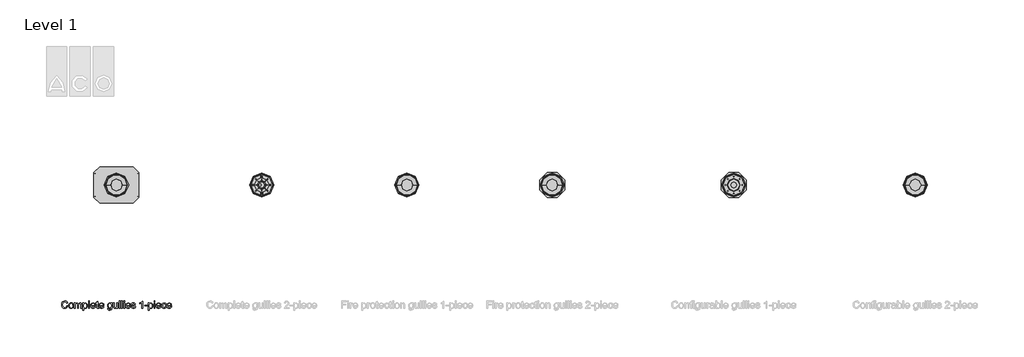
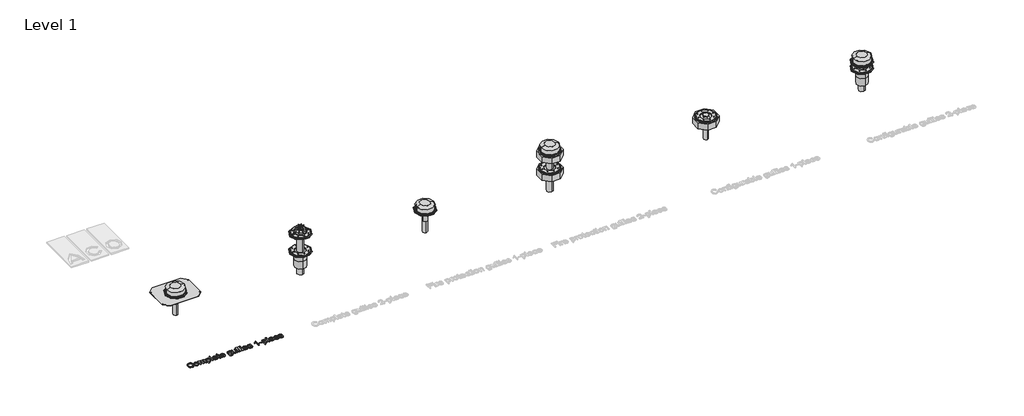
# One storey, part 1 of 4: 39 sanitary terminals, 1 proxy, 1 unitary equipment element.
"""IFC4 building model written with IfcOpenShell, lengths in millimetres."""

from ifc_helpers import new_model, si_unit, origin, origin_with_axes, place, context, project, spatial, polyline, outline, extrude, transform, mapped, element, save
from components import dn100_cellular_glass_insulation_01523197, dn70_uninsulated_26a85f5e, dn70_e7ab0a21, pf_gen_spin_complete_gully_double_body_aco_dn70_uninsulated_9e07d89d, std_nested_c40f8a32, std_nested_96657f73, std_nested_b7057b15, std_nested_38cea44b, std_nested_48636e09, std_nested_563bcbb4, std_nested_f304a034, std_nested_937152f7, std_nested_26a2ab0b, std_nested_b6c5579d, std_nested_9b388c5e, std_nested_0cbd71f9, std_nested_315dc5ef, std_nested_016ffaeb, std_nested_41c56b70

model = new_model("IFC4")

# Units and contexts
model_context = context("Model", 3, world=origin())
ifc_project = project(units=[si_unit("LENGTHUNIT", "METRE", prefix="MILLI")], contexts=[model_context])

# Site, building, storey
site = spatial("IfcSite", under=ifc_project)
building = spatial("IfcBuilding", under=site)
storey = spatial("IfcBuildingStorey", under=building, Name="Level 1", Elevation=0.0)

# Proxy
placement = place(None, origin())
element("IfcBuildingElementProxy", 1, Name="100mm ACO", ObjectType="100mm ACO", at=placement, inside=storey, context=model_context, shape_type="SweptSolid", body=[
    extrude(outline(polyline([(830.5555556, -668.1712963), (824.6419271, -682.9969618), (815.5237269, -693.5040509), (803.7362558, -699.7649016), (789.8148148, -701.8518519), (768.9091435, -697.9962384), (754.5717593, -686.4293981), (746.2818287, -669.4372106), (743.5185185, -649.3055556), (746.7628762, -627.9188368), (756.4959491, -611.7332176), (771.3288484, -601.5444155), (789.8726852, -598.1481481), (803.1864873, -599.9602141), (814.4241898, -605.396412), (823.0938947, -614.3265336), (828.7037037, -626.6203704), (815.7407407, -629.6296296), (805.8883102, -614.3663194), (789.380787, -609.2592593), (775.1591435, -611.968316), (764.84375, -620.0954861), (758.5720486, -632.7799479), (756.4814815, -649.1608796), (758.6950231, -667.5238715), (765.3356481, -680.4832176), (775.5353009, -688.17636), (788.4259259, -690.7407407), (798.9945023, -689.1239873), (807.3784722, -684.2737269), (813.5778356, -676.1754919), (817.5925926, -664.8148148), (830.5555556, -668.1712963)])), origin_with_axes(), (0.0, 0.0, 1.0), 10.0),
    extrude(outline(polyline([(874.9710648, -625.9259259), (888.1474248, -628.3203125), (898.8570602, -635.5034722), (905.964265, -647.0992477), (908.3333333, -662.7314815), (905.7689525, -681.0040509), (898.0758102, -692.9976852), (887.1708623, -699.6383102), (874.9710648, -701.8518519), (862.3806424, -699.5768229), (851.5769676, -692.7517361), (844.1442419, -680.9859664), (841.6666667, -663.8888889), (844.0610532, -647.1715856), (851.244213, -635.3298611), (861.9646991, -628.2769097), (874.9710648, -625.9259259)]), holes=[polyline([(874.9710648, -692.5925926), (883.7782118, -690.5852141), (890.1765046, -684.5630787), (895.3703704, -663.4259259), (893.9019097, -651.1429398), (889.4965278, -642.3032407), (882.9282407, -636.9646991), (874.9710648, -635.1851852), (866.8583623, -636.9900174), (860.3443287, -642.4045139), (856.0583044, -651.3925058), (854.6296296, -663.9178241), (856.0836227, -676.3997396), (860.4456019, -685.3732639), (866.9849537, -690.7877604), (874.9710648, -692.5925926)])]), origin_with_axes(), (0.0, 0.0, 1.0), 10.0),
    extrude(outline(polyline([(1019.4444444, -700.0), (1006.4814815, -700.0), (1006.4814815, -653.2986111), (1005.8304398, -644.4878472), (1002.4450231, -638.0063657), (993.9236111, -635.1851852), (981.9155093, -640.3356481), (978.1177662, -647.0920139), (976.8518519, -657.0601852), (976.8518519, -700.0), (963.8888889, -700.0), (963.8888889, -651.9097222), (960.7060185, -638.744213), (951.6782407, -635.1851852), (939.1493056, -640.7552083), (935.4817708, -648.7521701), (934.2592593, -661.6030093), (934.2592593, -700.0), (921.2962963, -700.0), (921.2962963, -627.7777778), (932.4074074, -627.7777778), (932.4074074, -637.6736111), (941.7896412, -628.8628472), (954.3402778, -625.9259259), (967.5202546, -629.0943287), (975.0, -638.6284722), (984.5196759, -629.1015625), (997.1064815, -625.9259259), (1006.8793403, -627.4450231), (1013.8599537, -632.0023148), (1018.0483218, -639.5978009), (1019.4444444, -650.2314815), (1019.4444444, -700.0)])), origin_with_axes(), (0.0, 0.0, 1.0), 10.0),
    extrude(outline(polyline([(1051.0561343, -636.4872685), (1059.5124421, -628.5662616), (1071.1805556, -625.9259259), (1083.5069444, -628.515625), (1092.9398148, -636.2847222), (1098.9293981, -648.2132523), (1100.9259259, -663.28125), (1098.6689815, -679.1702836), (1091.8981481, -691.4207176), (1081.8431713, -699.2440683), (1069.7337963, -701.8518519), (1059.3605324, -699.7251157), (1051.2731481, -693.3449074), (1050.9259259, -727.7777778), (1037.962963, -727.7777778), (1037.962963, -627.7777778), (1050.9259259, -627.7777778), (1051.0561343, -636.4872685)]), holes=[polyline([(1068.3159722, -692.5925926), (1076.0886863, -690.766059), (1082.3929398, -685.2864583), (1086.5704572, -676.1899595), (1087.962963, -663.5127315), (1086.6210937, -651.4359086), (1082.5954861, -642.5202546), (1076.4793113, -637.0189525), (1068.8657407, -635.1851852), (1060.9845197, -637.2287326), (1054.6440972, -643.359375), (1050.4665799, -652.7452257), (1049.0740741, -664.5543981), (1050.4087095, -676.66739), (1054.4126157, -685.4600694), (1060.5577257, -690.8094618), (1068.3159722, -692.5925926)])]), origin_with_axes(), (0.0, 0.0, 1.0), 10.0),
    extrude(outline(polyline([(1128.7037037, -700.0), (1115.7407407, -700.0), (1115.7407407, -600.0), (1128.7037037, -600.0), (1128.7037037, -700.0)])), origin_with_axes(), (0.0, 0.0, 1.0), 10.0),
    extrude(outline(polyline([(1210.1851852, -666.6666667), (1156.4814815, -666.6666667), (1158.5539641, -677.7922454), (1163.2667824, -685.9375), (1170.0484664, -690.9288194), (1178.3275463, -692.5925926), (1190.0028935, -688.9033565), (1197.2222222, -677.7777778), (1210.1851852, -679.2824074), (1205.8087384, -688.9033565), (1198.8715278, -696.0069444), (1189.6267361, -700.390625), (1178.3275463, -701.8518519), (1163.7405961, -699.3453414), (1152.734375, -691.8258102), (1145.8224826, -679.9660012), (1143.5185185, -664.4386574), (1145.739294, -648.900463), (1152.4016204, -636.6030093), (1163.1004051, -628.5951968), (1177.4305556, -625.9259259), (1192.650463, -629.3836806), (1205.078125, -641.1603009), (1208.9084201, -651.6963252), (1210.1851852, -666.6666667)]), holes=[polyline([(1197.2222222, -657.4074074), (1195.1388889, -647.2511574), (1190.3935185, -640.3935185), (1177.1122685, -635.1851852), (1169.2563657, -636.7332176), (1162.9340278, -641.3773148), (1156.4814815, -657.4074074), (1197.2222222, -657.4074074)])]), origin_with_axes(), (0.0, 0.0, 1.0), 10.0),
    extrude(outline(polyline([(1252.7777778, -701.0127315), (1243.6921296, -701.8518519), (1232.103588, -698.9728009), (1227.662037, -691.6666667), (1226.8518519, -679.3402778), (1226.8518519, -637.037037), (1217.5925926, -637.037037), (1217.5925926, -627.7777778), (1226.8518519, -627.7777778), (1226.8518519, -609.4328704), (1239.8148148, -601.8518519), (1239.8148148, -627.7777778), (1250.9259259, -627.7777778), (1250.9259259, -637.037037), (1239.8148148, -637.037037), (1239.8148148, -681.9444444), (1240.8564815, -690.162037), (1246.1516204, -692.5925926), (1251.1863426, -692.5925926), (1252.7777778, -701.0127315)])), origin_with_axes(), (0.0, 0.0, 1.0), 10.0),
    extrude(outline(polyline([(1326.8518519, -666.6666667), (1273.1481481, -666.6666667), (1275.2206308, -677.7922454), (1279.9334491, -685.9375), (1286.7151331, -690.9288194), (1294.994213, -692.5925926), (1306.6695602, -688.9033565), (1313.8888889, -677.7777778), (1326.8518519, -679.2824074), (1322.4754051, -688.9033565), (1315.5381944, -696.0069444), (1306.2934028, -700.390625), (1294.994213, -701.8518519), (1280.4072627, -699.3453414), (1269.4010417, -691.8258102), (1262.4891493, -679.9660012), (1260.1851852, -664.4386574), (1262.4059606, -648.900463), (1269.068287, -636.6030093), (1279.7670718, -628.5951968), (1294.0972222, -625.9259259), (1309.3171296, -629.3836806), (1321.7447917, -641.1603009), (1325.5750868, -651.6963252), (1326.8518519, -666.6666667)]), holes=[polyline([(1313.8888889, -657.4074074), (1311.8055556, -647.2511574), (1307.0601852, -640.3935185), (1293.7789352, -635.1851852), (1285.9230324, -636.7332176), (1279.6006944, -641.3773148), (1273.1481481, -657.4074074), (1313.8888889, -657.4074074)])]), origin_with_axes(), (0.0, 0.0, 1.0), 10.0),
    extrude(outline(polyline([(1439.8148148, -689.3518519), (1436.7621528, -711.9936343), (1425.8969907, -723.6255787), (1407.2337963, -727.7777778), (1396.0177951, -726.3708044), (1386.8489583, -722.1498843), (1380.7400174, -714.7243924), (1378.7037037, -703.7037037), (1391.6666667, -705.7581019), (1396.2384259, -715.3211806), (1407.4363426, -718.5185185), (1420.7465278, -714.8292824), (1425.9114583, -705.8449074), (1426.8518519, -691.2326389), (1418.0772569, -697.8081597), (1407.2627315, -700.0), (1394.8712384, -697.3885995), (1385.1851852, -689.5543981), (1378.9351852, -677.7416088), (1376.8518519, -663.1944444), (1378.833912, -648.5532407), (1384.7800926, -636.5740741), (1394.2274306, -628.587963), (1406.712963, -625.9259259), (1417.7879051, -628.3058449), (1426.5914352, -635.4456019), (1426.8518519, -627.7777778), (1439.8148148, -627.7777778), (1439.8148148, -689.3518519)]), holes=[polyline([(1409.2013889, -690.7407407), (1416.4134838, -689.134838), (1422.7719907, -684.3171296), (1427.2207755, -675.7233796), (1428.7037037, -662.7893519), (1427.2894965, -651.0018808), (1423.046875, -642.3177083), (1416.7209201, -636.968316), (1409.056713, -635.1851852), (1401.3346354, -637.0117187), (1395.1822917, -642.4913194), (1391.156684, -651.1465567), (1389.8148148, -662.5), (1391.2217882, -675.2170139), (1395.4427083, -683.9699074), (1401.6963252, -689.0480324), (1409.2013889, -690.7407407)])]), origin_with_axes(), (0.0, 0.0, 1.0), 10.0),
    extrude(outline(polyline([(1517.5925926, -700.0), (1506.4814815, -700.0), (1506.4814815, -689.4965278), (1496.2384259, -698.7630208), (1483.275463, -701.8518519), (1469.1550926, -698.3362269), (1460.5034722, -688.6574074), (1458.3333333, -672.65625), (1458.3333333, -627.7777778), (1471.2962963, -627.7777778), (1471.2962963, -668.75), (1472.193287, -682.8414352), (1476.880787, -689.84375), (1485.9085648, -692.5925926), (1498.6545139, -687.6736111), (1503.1358507, -680.1215278), (1504.6296296, -667.3032407), (1504.6296296, -627.7777778), (1517.5925926, -627.7777778), (1517.5925926, -700.0)])), origin_with_axes(), (0.0, 0.0, 1.0), 10.0),
    extrude(outline(polyline([(1549.0740741, -700.0), (1536.1111111, -700.0), (1536.1111111, -600.0), (1549.0740741, -600.0), (1549.0740741, -700.0)])), origin_with_axes(), (0.0, 0.0, 1.0), 10.0),
    extrude(outline(polyline([(1580.5555556, -700.0), (1567.5925926, -700.0), (1567.5925926, -600.0), (1580.5555556, -600.0), (1580.5555556, -700.0)])), origin_with_axes(), (0.0, 0.0, 1.0), 10.0),
    extrude(outline(polyline([(1612.037037, -612.962963), (1599.0740741, -612.962963), (1599.0740741, -600.0), (1612.037037, -600.0), (1612.037037, -612.962963)])), origin_with_axes(), (0.0, 0.0, 1.0), 10.0),
    extrude(outline(polyline([(1612.037037, -700.0), (1599.0740741, -700.0), (1599.0740741, -627.7777778), (1612.037037, -627.7777778), (1612.037037, -700.0)])), origin_with_axes(), (0.0, 0.0, 1.0), 10.0),
    extrude(outline(polyline([(1693.5185185, -666.6666667), (1639.8148148, -666.6666667), (1641.8872975, -677.7922454), (1646.6001157, -685.9375), (1653.3817998, -690.9288194), (1661.6608796, -692.5925926), (1673.3362269, -688.9033565), (1680.5555556, -677.7777778), (1693.5185185, -679.2824074), (1689.1420718, -688.9033565), (1682.2048611, -696.0069444), (1672.9600694, -700.390625), (1661.6608796, -701.8518519), (1647.0739294, -699.3453414), (1636.0677083, -691.8258102), (1629.155816, -679.9660012), (1626.8518519, -664.4386574), (1629.0726273, -648.900463), (1635.7349537, -636.6030093), (1646.4337384, -628.5951968), (1660.7638889, -625.9259259), (1675.9837963, -629.3836806), (1688.4114583, -641.1603009), (1692.2417535, -651.6963252), (1693.5185185, -666.6666667)]), holes=[polyline([(1680.5555556, -657.4074074), (1678.4722222, -647.2511574), (1673.7268519, -640.3935185), (1660.4456019, -635.1851852), (1652.5896991, -636.7332176), (1646.2673611, -641.3773148), (1639.8148148, -657.4074074), (1680.5555556, -657.4074074)])]), origin_with_axes(), (0.0, 0.0, 1.0), 10.0),
    extrude(outline(polyline([(1749.0740741, -648.1481481), (1744.2853009, -638.4259259), (1733.2175926, -635.1851852), (1721.9039352, -637.962963), (1717.5925926, -646.0358796), (1720.4427083, -653.1828704), (1733.8831019, -657.0601852), (1751.6059028, -661.2268519), (1760.6481481, -667.5491898), (1763.8888889, -678.8773148), (1761.8778935, -687.8074363), (1755.8449074, -695.2112269), (1746.448206, -700.1916956), (1734.3460648, -701.8518519), (1721.8713831, -700.4557292), (1712.4565972, -696.2673611), (1706.0944734, -689.2939815), (1702.7777778, -679.5428241), (1715.7407407, -677.7777778), (1721.3396991, -688.9033565), (1734.3460648, -692.5925926), (1746.6435185, -688.7586806), (1750.9259259, -679.4270833), (1749.0017361, -673.4519676), (1744.1984954, -670.0810185), (1730.6134259, -667.1875), (1709.6788194, -659.375), (1704.6296296, -646.7881944), (1706.499566, -638.5018808), (1712.109375, -631.8142361), (1720.880353, -627.3980035), (1732.2337963, -625.9259259), (1744.1659433, -627.2135417), (1753.1105324, -631.0763889), (1759.0675637, -637.5072338), (1762.037037, -646.4988426), (1749.0740741, -648.1481481)])), origin_with_axes(), (0.0, 0.0, 1.0), 10.0),
    extrude(outline(polyline([(1860.1851852, -700.0), (1847.2222222, -700.0), (1847.2222222, -622.2222222), (1823.1481481, -637.037037), (1823.1481481, -627.7777778), (1841.4207176, -616.0590278), (1852.7777778, -601.8518519), (1860.1851852, -601.8518519), (1860.1851852, -700.0)])), origin_with_axes(), (0.0, 0.0, 1.0), 10.0),
    extrude(outline(polyline([(1926.8518519, -666.6666667), (1887.962963, -666.6666667), (1887.962963, -657.4074074), (1926.8518519, -657.4074074), (1926.8518519, -666.6666667)])), origin_with_axes(), (0.0, 0.0, 1.0), 10.0),
    extrude(outline(polyline([(1952.9079861, -636.4872685), (1961.364294, -628.5662616), (1973.0324074, -625.9259259), (1985.3587963, -628.515625), (1994.7916667, -636.2847222), (2000.78125, -648.2132523), (2002.7777778, -663.28125), (2000.5208333, -679.1702836), (1993.75, -691.4207176), (1983.6950231, -699.2440683), (1971.5856481, -701.8518519), (1961.2123843, -699.7251157), (1953.125, -693.3449074), (1952.7777778, -727.7777778), (1939.8148148, -727.7777778), (1939.8148148, -627.7777778), (1952.7777778, -627.7777778), (1952.9079861, -636.4872685)]), holes=[polyline([(1970.1678241, -692.5925926), (1977.9405382, -690.766059), (1984.2447917, -685.2864583), (1988.422309, -676.1899595), (1989.8148148, -663.5127315), (1988.4729456, -651.4359086), (1984.447338, -642.5202546), (1978.3311632, -637.0189525), (1970.7175926, -635.1851852), (1962.8363715, -637.2287326), (1956.4959491, -643.359375), (1952.3184317, -652.7452257), (1950.9259259, -664.5543981), (1952.2605613, -676.66739), (1956.2644676, -685.4600694), (1962.4095775, -690.8094618), (1970.1678241, -692.5925926)])]), origin_with_axes(), (0.0, 0.0, 1.0), 10.0),
    extrude(outline(polyline([(2030.5555556, -700.0), (2017.5925926, -700.0), (2017.5925926, -627.7777778), (2030.5555556, -627.7777778), (2030.5555556, -700.0)])), origin_with_axes(), (0.0, 0.0, 1.0), 10.0),
    extrude(outline(polyline([(2030.5555556, -612.962963), (2017.5925926, -612.962963), (2017.5925926, -600.0), (2030.5555556, -600.0), (2030.5555556, -612.962963)])), origin_with_axes(), (0.0, 0.0, 1.0), 10.0),
    extrude(outline(polyline([(2112.037037, -666.6666667), (2058.3333333, -666.6666667), (2060.405816, -677.7922454), (2065.1186343, -685.9375), (2071.9003183, -690.9288194), (2080.1793981, -692.5925926), (2091.8547454, -688.9033565), (2099.0740741, -677.7777778), (2112.037037, -679.2824074), (2107.6605903, -688.9033565), (2100.7233796, -696.0069444), (2091.478588, -700.390625), (2080.1793981, -701.8518519), (2065.5924479, -699.3453414), (2054.5862269, -691.8258102), (2047.6743345, -679.9660012), (2045.3703704, -664.4386574), (2047.5911458, -648.900463), (2054.2534722, -636.6030093), (2064.9522569, -628.5951968), (2079.2824074, -625.9259259), (2094.5023148, -629.3836806), (2106.9299769, -641.1603009), (2110.760272, -651.6963252), (2112.037037, -666.6666667)]), holes=[polyline([(2099.0740741, -657.4074074), (2096.9907407, -647.2511574), (2092.2453704, -640.3935185), (2078.9641204, -635.1851852), (2071.1082176, -636.7332176), (2064.7858796, -641.3773148), (2058.3333333, -657.4074074), (2099.0740741, -657.4074074)])]), origin_with_axes(), (0.0, 0.0, 1.0), 10.0),
    extrude(outline(polyline([(2187.962963, -675.5497685), (2183.9337384, -687.3553241), (2176.7650463, -695.5150463), (2167.4406829, -700.2676505), (2156.9444444, -701.8518519), (2142.6287616, -699.2621528), (2131.9733796, -691.4930556), (2125.354456, -679.4487847), (2123.1481481, -664.0335648), (2128.1828704, -641.3483796), (2140.7841435, -629.3836806), (2156.6840278, -625.9259259), (2176.1429398, -631.5827546), (2182.6786748, -638.566985), (2186.1111111, -648.2060185), (2173.1481481, -650.0), (2167.2453704, -638.9033565), (2156.8287037, -635.1851852), (2147.8732639, -637.0695891), (2141.3773148, -642.7228009), (2137.427662, -651.7541956), (2136.1111111, -663.7731481), (2137.4312789, -676.0018808), (2141.3917824, -685.083912), (2147.8407118, -690.7154225), (2156.6261574, -692.5925926), (2169.2274306, -687.962963), (2175.0, -674.0740741), (2187.962963, -675.5497685)])), origin_with_axes(), (0.0, 0.0, 1.0), 10.0),
    extrude(outline(polyline([(2258.3333333, -666.6666667), (2204.6296296, -666.6666667), (2206.7021123, -677.7922454), (2211.4149306, -685.9375), (2218.1966146, -690.9288194), (2226.4756944, -692.5925926), (2238.1510417, -688.9033565), (2245.3703704, -677.7777778), (2258.3333333, -679.2824074), (2253.9568866, -688.9033565), (2247.0196759, -696.0069444), (2237.7748843, -700.390625), (2226.4756944, -701.8518519), (2211.8887442, -699.3453414), (2200.8825231, -691.8258102), (2193.9706308, -679.9660012), (2191.6666667, -664.4386574), (2193.8874421, -648.900463), (2200.5497685, -636.6030093), (2211.2485532, -628.5951968), (2225.5787037, -625.9259259), (2240.7986111, -629.3836806), (2253.2262731, -641.1603009), (2257.0565683, -651.6963252), (2258.3333333, -666.6666667)]), holes=[polyline([(2245.3703704, -657.4074074), (2243.287037, -647.2511574), (2238.5416667, -640.3935185), (2225.2604167, -635.1851852), (2217.4045139, -636.7332176), (2211.0821759, -641.3773148), (2204.6296296, -657.4074074), (2245.3703704, -657.4074074)])]), origin_with_axes(), (0.0, 0.0, 1.0), 10.0),
])

# Sanitary terminals
dn100_cellular_glass_insulation_shape = dn100_cellular_glass_insulation_01523197(model_context)
element("IfcSanitaryTerminal", 2, ObjectType="PF_GEN_spin complete gully fire protection double body_ACO : DN100 cellular glass insulation", at=placement, inside=storey, context=model_context, shape_type="MappedRepresentation", body=[
    mapped(dn100_cellular_glass_insulation_shape, transform((7500.0, 1000.0, 0.0), x_axis=(1.0, 0.0, 0.0), y_axis=(0.0, 1.0, 0.0), z_axis=(0.0, 0.0, 1.0))),
])
dn70_uninsulated_shape = dn70_uninsulated_26a85f5e(model_context)
element("IfcSanitaryTerminal", 3, ObjectType="PF_GEN_spin configurable gully single body_ACO : DN70", at=placement, inside=storey, context=model_context, shape_type="MappedRepresentation", body=[
    mapped(dn70_uninsulated_shape, transform((10000.0, 1000.0, 0.0), x_axis=(1.0, 0.0, 0.0), y_axis=(0.0, 1.0, 0.0), z_axis=(0.0, 0.0, 1.0))),
])
dn70_shape = dn70_e7ab0a21(model_context)
element("IfcSanitaryTerminal", 4, ObjectType="PF_GEN_spin configurable gully double body_ACO : DN70", at=placement, inside=storey, context=model_context, shape_type="MappedRepresentation", body=[
    mapped(dn70_shape, transform((12500.0, 1000.0, -47.4284548), x_axis=(1.0, 0.0, 0.0), y_axis=(0.0, 1.0, 0.0), z_axis=(0.0, 0.0, 1.0))),
])
element("IfcSanitaryTerminal", 5, ObjectType="PF_GEN_spin complete gully fire protection single body_ACO : DN70 uninsulated", at=placement, inside=storey, context=model_context, shape_type="MappedRepresentation", body=[
    mapped(dn70_uninsulated_shape, transform((5500.0, 1000.0, 0.0), x_axis=(1.0, 0.0, 0.0), y_axis=(0.0, 1.0, 0.0), z_axis=(0.0, 0.0, 1.0))),
])
pf_gen_spin_complete_gully_double_body_aco_dn70_uninsulated_shape = pf_gen_spin_complete_gully_double_body_aco_dn70_uninsulated_9e07d89d(model_context)
element("IfcSanitaryTerminal", 6, ObjectType="PF_GEN_spin complete gully double body_ACO : DN70 uninsulated", at=placement, inside=storey, context=model_context, shape_type="MappedRepresentation", body=[
    mapped(pf_gen_spin_complete_gully_double_body_aco_dn70_uninsulated_shape, transform((3500.0, 1000.0, 0.0), x_axis=(1.0, 0.0, 0.0), y_axis=(0.0, 1.0, 0.0), z_axis=(0.0, 0.0, 1.0))),
])
element("IfcSanitaryTerminal", 7, ObjectType="PF_GEN_spin complete gully single body_ACO : DN70 uninsulated", at=placement, inside=storey, context=model_context, shape_type="MappedRepresentation", body=[
    mapped(dn70_uninsulated_shape, transform((1500.0, 1000.0, 0.0), x_axis=(1.0, 0.0, 0.0), y_axis=(0.0, 1.0, 0.0), z_axis=(0.0, 0.0, 1.0))),
])
std_nested_shape = std_nested_c40f8a32(model_context)
element("IfcSanitaryTerminal", 8, ObjectType="ZZZ_do not use_PF_PP_gravel trap_ACO : std (nested)", at=placement, inside=storey, context=model_context, shape_type="MappedRepresentation", body=[
    mapped(std_nested_shape, transform((3500.0, 1000.0, 313.0), x_axis=(-1.0, 0.0, 0.0), y_axis=(0.0, -1.0, 0.0), z_axis=(0.0, 0.0, 1.0))),
])
std_nested_2_shape = std_nested_96657f73(model_context)
element("IfcSanitaryTerminal", 9, ObjectType="ZZZ_do not use_PF_ST_gravel trap cover_ACO : std (nested)", at=placement, inside=storey, context=model_context, shape_type="MappedRepresentation", body=[
    mapped(std_nested_2_shape, transform((1500.0, 1000.0, 10.5), x_axis=(-1.0, 0.0, 0.0), y_axis=(0.0, -1.0, 0.0), z_axis=(0.0, 0.0, 1.0))),
])
element("IfcSanitaryTerminal", 10, ObjectType="ZZZ_do not use_PF_ST_gravel trap cover_ACO : std (nested)", at=placement, inside=storey, context=model_context, shape_type="MappedRepresentation", body=[
    mapped(std_nested_2_shape, transform((5500.0, 1000.0, 10.5), x_axis=(-1.0, 0.0, 0.0), y_axis=(0.0, -1.0, 0.0), z_axis=(0.0, 0.0, 1.0))),
])
element("IfcSanitaryTerminal", 11, ObjectType="ZZZ_do not use_PF_ST_gravel trap cover_ACO : std (nested)", at=placement, inside=storey, context=model_context, shape_type="MappedRepresentation", body=[
    mapped(std_nested_2_shape, transform((7500.0, 1000.0, 310.5), x_axis=(-1.0, 0.0, 0.0), y_axis=(0.0, -1.0, 0.0), z_axis=(0.0, 0.0, 1.0))),
])
std_nested_3_shape = std_nested_b7057b15(model_context)
element("IfcSanitaryTerminal", 12, ObjectType="ZZZ_do not use_PF_ST_holder sheet for trapezoidal panel roof_ACO : std (nested)", at=placement, inside=storey, context=model_context, shape_type="MappedRepresentation", body=[
    mapped(std_nested_3_shape, transform((1500.0, 1000.0, -6.0), x_axis=(1.0, 0.0, 0.0), y_axis=(0.0, -1.0, 0.0), z_axis=(0.0, 0.0, -1.0))),
])
std_nested_4_shape = std_nested_38cea44b(model_context)
element("IfcSanitaryTerminal", 13, ObjectType="ZZZ_do not use_PF_ST_fire protection inset_ACO : std (nested)", at=placement, inside=storey, context=model_context, shape_type="MappedRepresentation", body=[
    mapped(std_nested_4_shape, transform((7500.0, 1000.0, 300.0), x_axis=(1.0, 0.0, 0.0), y_axis=(0.0, 1.0, 0.0), z_axis=(0.0, 0.0, 1.0))),
])
std_nested_5_shape = std_nested_48636e09(model_context)
element("IfcSanitaryTerminal", 14, ObjectType="ZZZ_do not use_PF_ST_bottom part for 1-piece_ACO : std (nested)", at=placement, inside=storey, context=model_context, shape_type="MappedRepresentation", body=[
    mapped(std_nested_5_shape, transform((1500.0, 1000.0, 0.0), x_axis=(1.0, 0.0, 0.0), y_axis=(0.0, 1.0, 0.0), z_axis=(0.0, 0.0, 1.0))),
])
element("IfcSanitaryTerminal", 15, ObjectType="ZZZ_do not use_PF_ST_bottom part for 1-piece_ACO : std (nested)", at=placement, inside=storey, context=model_context, shape_type="MappedRepresentation", body=[
    mapped(std_nested_5_shape, transform((5500.0, 1000.0, 0.0), x_axis=(1.0, 0.0, 0.0), y_axis=(0.0, 1.0, 0.0), z_axis=(0.0, 0.0, 1.0))),
])
element("IfcSanitaryTerminal", 16, ObjectType="ZZZ_do not use_PF_ST_bottom part for 1-piece_ACO : std (nested)", at=placement, inside=storey, context=model_context, shape_type="MappedRepresentation", body=[
    mapped(std_nested_5_shape, transform((10000.0, 1000.0, 0.0), x_axis=(1.0, 0.0, 0.0), y_axis=(0.0, 1.0, 0.0), z_axis=(0.0, 0.0, 1.0))),
])
std_nested_6_shape = std_nested_563bcbb4(model_context)
element("IfcSanitaryTerminal", 17, ObjectType="ZZZ_do not use_PF_ST_bottom part for 2-piece_ACO : std (nested)", at=placement, inside=storey, context=model_context, shape_type="MappedRepresentation", body=[
    mapped(std_nested_6_shape, transform((3500.0, 1000.0, 300.0), x_axis=(1.0, 0.0, 0.0), y_axis=(0.0, 1.0, 0.0), z_axis=(0.0, 0.0, 1.0))),
])
element("IfcSanitaryTerminal", 18, ObjectType="ZZZ_do not use_PF_ST_bottom part for 2-piece_ACO : std (nested)", at=placement, inside=storey, context=model_context, shape_type="MappedRepresentation", body=[
    mapped(std_nested_6_shape, transform((7500.0, 1000.0, 300.0), x_axis=(1.0, 0.0, 0.0), y_axis=(0.0, 1.0, 0.0), z_axis=(0.0, 0.0, 1.0))),
])
std_nested_7_shape = std_nested_f304a034(model_context)
element("IfcSanitaryTerminal", 19, ObjectType="ZZZ_do not use_PF_ST_bottom part for 2-piece_ACO : std (nested)", at=placement, inside=storey, context=model_context, shape_type="MappedRepresentation", body=[
    mapped(std_nested_7_shape, transform((12500.0, 1000.0, 59.8345654), x_axis=(1.0, 0.0, 0.0), y_axis=(0.0, 1.0, 0.0), z_axis=(0.0, 0.0, 1.0))),
])
std_nested_8_shape = std_nested_937152f7(model_context)
element("IfcSanitaryTerminal", 20, ObjectType="ZZZ_do not use_PF_ST_fire protection inset_ACO : std (nested)", at=placement, inside=storey, context=model_context, shape_type="MappedRepresentation", body=[
    mapped(std_nested_8_shape, transform((5500.0, 1000.0, 0.0), x_axis=(0.0, 1.0, 0.0), y_axis=(-1.0, 0.0, 0.0), z_axis=(0.0, 0.0, 1.0))),
])
element("IfcSanitaryTerminal", 21, ObjectType="ZZZ_do not use_PF_ST_fire protection inset_ACO : std (nested)", at=placement, inside=storey, context=model_context, shape_type="MappedRepresentation", body=[
    mapped(std_nested_4_shape, transform((12500.0, 1000.0, 59.8345654), x_axis=(0.0, 1.0, 0.0), y_axis=(-1.0, 0.0, 0.0), z_axis=(0.0, 0.0, 1.0))),
])
element("IfcSanitaryTerminal", 22, ObjectType="ZZZ_do not use_PF_ST_fire protection inset_ACO : std (nested)", at=placement, inside=storey, context=model_context, shape_type="MappedRepresentation", body=[
    mapped(std_nested_8_shape, transform((10000.0, 1000.0, 0.0), x_axis=(0.0, 1.0, 0.0), y_axis=(-1.0, 0.0, 0.0), z_axis=(0.0, 0.0, 1.0))),
])
element("IfcSanitaryTerminal", 23, ObjectType="ZZZ_do not use_PF_ST_gravel trap cover_ACO : std (nested)", at=placement, inside=storey, context=model_context, shape_type="MappedRepresentation", body=[
    mapped(std_nested_2_shape, transform((12500.0, 1000.0, 71.8345654), x_axis=(-1.0, 0.0, 0.0), y_axis=(0.0, -1.0, 0.0), z_axis=(0.0, 0.0, 1.0))),
])
std_nested_9_shape = std_nested_26a2ab0b(model_context)
element("IfcSanitaryTerminal", 24, ObjectType="ZZZ_do not use_PF_ST_lower section for gully body_ACO : std (nested)", at=placement, inside=storey, context=model_context, shape_type="MappedRepresentation", body=[
    mapped(std_nested_9_shape, transform((3500.0, 1000.0, 0.0), x_axis=(1.0, 0.0, 0.0), y_axis=(0.0, 1.0, 0.0), z_axis=(0.0, 0.0, 1.0))),
])
element("IfcSanitaryTerminal", 25, ObjectType="ZZZ_do not use_PF_ST_lower section for gully body_ACO : std (nested)", at=placement, inside=storey, context=model_context, shape_type="MappedRepresentation", body=[
    mapped(std_nested_9_shape, transform((7500.0, 1000.0, 0.0), x_axis=(1.0, 0.0, 0.0), y_axis=(0.0, 1.0, 0.0), z_axis=(0.0, 0.0, 1.0))),
])
std_nested_10_shape = std_nested_b6c5579d(model_context)
element("IfcSanitaryTerminal", 26, ObjectType="ZZZ_do not use_PF_CG_insulating body_ACO : std (nested)", at=placement, inside=storey, context=model_context, shape_type="MappedRepresentation", body=[
    mapped(std_nested_10_shape, transform((7500.0, 1000.0, -7.5), x_axis=(1.0, 0.0, 0.0), y_axis=(0.0, 1.0, 0.0), z_axis=(0.0, 0.0, 1.0))),
])
element("IfcSanitaryTerminal", 27, ObjectType="ZZZ_do not use_PF_CG_insulating body_ACO : std (nested)", at=placement, inside=storey, context=model_context, shape_type="MappedRepresentation", body=[
    mapped(std_nested_10_shape, transform((7500.0, 1000.0, 294.0), x_axis=(0.0, -1.0, 0.0), y_axis=(1.0, 0.0, 0.0), z_axis=(0.0, 0.0, 1.0))),
])
std_nested_11_shape = std_nested_9b388c5e(model_context)
element("IfcSanitaryTerminal", 28, ObjectType="ZZZ_do not use_PF_CG_insulating body_ACO : std (nested)", at=placement, inside=storey, context=model_context, shape_type="MappedRepresentation", body=[
    mapped(std_nested_11_shape, transform((10000.0, 1000.0, -6.0), x_axis=(-1.0, 0.0, 0.0), y_axis=(0.0, -1.0, 0.0), z_axis=(0.0, 0.0, 1.0))),
])
std_nested_12_shape = std_nested_0cbd71f9(model_context)
element("IfcSanitaryTerminal", 29, ObjectType="ZZZ_do not use_PF_GEN_flange seal_ACO : std (nested)", at=placement, inside=storey, context=model_context, shape_type="MappedRepresentation", body=[
    mapped(std_nested_12_shape, transform((1500.0, 1000.0, 5.0), x_axis=(1.0, 0.0, 0.0), y_axis=(0.0, -1.0, 0.0), z_axis=(0.0, 0.0, -1.0))),
])
element("IfcSanitaryTerminal", 30, ObjectType="ZZZ_do not use_PF_GEN_flange seal_ACO : std (nested)", at=placement, inside=storey, context=model_context, shape_type="MappedRepresentation", body=[
    mapped(std_nested_12_shape, transform((5500.0, 1000.0, 5.0), x_axis=(1.0, 0.0, 0.0), y_axis=(0.0, -1.0, 0.0), z_axis=(0.0, 0.0, -1.0))),
])
element("IfcSanitaryTerminal", 31, ObjectType="ZZZ_do not use_PF_GEN_flange seal_ACO : std (nested)", at=placement, inside=storey, context=model_context, shape_type="MappedRepresentation", body=[
    mapped(std_nested_12_shape, transform((7500.0, 1000.0, 5.0), x_axis=(1.0, 0.0, 0.0), y_axis=(0.0, -1.0, 0.0), z_axis=(0.0, 0.0, -1.0))),
])
element("IfcSanitaryTerminal", 32, ObjectType="ZZZ_do not use_PF_GEN_flange seal_ACO : std (nested)", at=placement, inside=storey, context=model_context, shape_type="MappedRepresentation", body=[
    mapped(std_nested_12_shape, transform((7500.0, 1000.0, 305.0), x_axis=(1.0, 0.0, 0.0), y_axis=(0.0, -1.0, 0.0), z_axis=(0.0, 0.0, -1.0))),
])
element("IfcSanitaryTerminal", 33, ObjectType="ZZZ_do not use_PF_GEN_flange seal_ACO : std (nested)", at=placement, inside=storey, context=model_context, shape_type="MappedRepresentation", body=[
    mapped(std_nested_12_shape, transform((10000.0, 1000.0, 5.0), x_axis=(1.0, 0.0, 0.0), y_axis=(0.0, -1.0, 0.0), z_axis=(0.0, 0.0, -1.0))),
])
element("IfcSanitaryTerminal", 34, ObjectType="ZZZ_do not use_PF_GEN_flange seal_ACO : std (nested)", at=placement, inside=storey, context=model_context, shape_type="MappedRepresentation", body=[
    mapped(std_nested_12_shape, transform((12500.0, 1000.0, -42.4284548), x_axis=(1.0, 0.0, 0.0), y_axis=(0.0, -1.0, 0.0), z_axis=(0.0, 0.0, -1.0))),
])
element("IfcSanitaryTerminal", 35, ObjectType="ZZZ_do not use_PF_GEN_flange seal_ACO : std (nested)", at=placement, inside=storey, context=model_context, shape_type="MappedRepresentation", body=[
    mapped(std_nested_12_shape, transform((12500.0, 1000.0, 64.8345654), x_axis=(1.0, 0.0, 0.0), y_axis=(0.0, -1.0, 0.0), z_axis=(0.0, 0.0, -1.0))),
])
std_nested_13_shape = std_nested_315dc5ef(model_context)
element("IfcSanitaryTerminal", 36, ObjectType="ZZZ_do not use_PF_GEN_flange seal_ACO : std (nested)", at=placement, inside=storey, context=model_context, shape_type="MappedRepresentation", body=[
    mapped(std_nested_13_shape, transform((3500.0, 1000.0, 6.0), x_axis=(1.0, 0.0, 0.0), y_axis=(0.0, -1.0, 0.0), z_axis=(0.0, 0.0, -1.0))),
])
element("IfcSanitaryTerminal", 37, ObjectType="ZZZ_do not use_PF_GEN_flange seal_ACO : std (nested)", at=placement, inside=storey, context=model_context, shape_type="MappedRepresentation", body=[
    mapped(std_nested_13_shape, transform((3500.0, 1000.0, 306.0), x_axis=(1.0, 0.0, 0.0), y_axis=(0.0, -1.0, 0.0), z_axis=(0.0, 0.0, -1.0))),
])
std_nested_14_shape = std_nested_016ffaeb(model_context)
element("IfcSanitaryTerminal", 38, ObjectType="ZZZ_do not use_PF_RW_insulation_ACO : std (nested)", at=placement, inside=storey, context=model_context, shape_type="MappedRepresentation", body=[
    mapped(std_nested_14_shape, transform((3500.0, 1000.0, -6.0), x_axis=(1.0, 0.0, 0.0), y_axis=(0.0, 1.0, 0.0), z_axis=(0.0, 0.0, 1.0))),
])
element("IfcSanitaryTerminal", 39, ObjectType="ZZZ_do not use_PF_RW_insulation_ACO : std (nested)", at=placement, inside=storey, context=model_context, shape_type="MappedRepresentation", body=[
    mapped(std_nested_14_shape, transform((12500.0, 1000.0, -53.4284548), x_axis=(1.0, 0.0, 0.0), y_axis=(0.0, 1.0, 0.0), z_axis=(0.0, 0.0, 1.0))),
])
element("IfcSanitaryTerminal", 40, ObjectType="ZZZ_do not use_PF_ST_lower section for gully body_ACO : std (nested)", at=placement, inside=storey, context=model_context, shape_type="MappedRepresentation", body=[
    mapped(std_nested_9_shape, transform((12500.0, 1000.0, -47.4284548), x_axis=(1.0, 0.0, 0.0), y_axis=(0.0, 1.0, 0.0), z_axis=(0.0, 0.0, 1.0))),
])

# Unitary equipment
std_nested_15_shape = std_nested_41c56b70(model_context)
element("IfcUnitaryEquipment", 41, ObjectType="ZZZ_do not use_ME_GEN_flat roof heating_ACO : std (nested)", at=placement, inside=storey, context=model_context, shape_type="MappedRepresentation", body=[
    mapped(std_nested_15_shape, transform((12500.0, 1000.0, -228.4284548), x_axis=(0.0, -1.0, 0.0), y_axis=(-1.0, 0.0, 0.0), z_axis=(0.0, 0.0, -1.0))),
])

save(model, "model.ifc")
